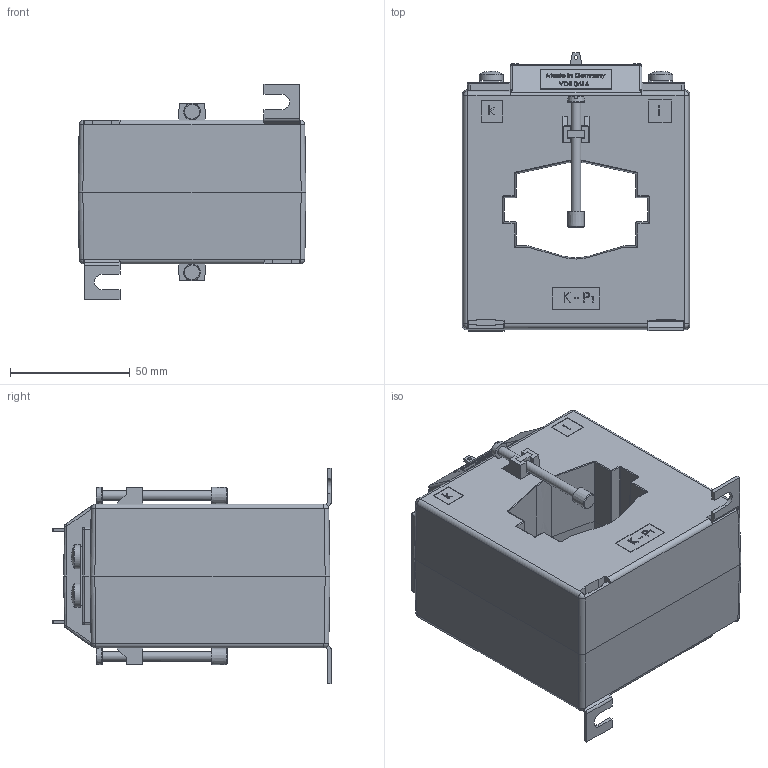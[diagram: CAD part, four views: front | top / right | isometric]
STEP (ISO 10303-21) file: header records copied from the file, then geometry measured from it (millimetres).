
FILE_DESCRIPTION(/* description */ (''),/* implementation_level */ '2;1');
FILE_NAME(/* name */ 'ASK61.6.stp',/* time_stamp */ '2024-03-04T13:08:59+01:00',/* author */ ('JDI'),/* organization */ (''),/* preprocessor_version */ 'ST-DEVELOPER v19.2',/* originating_system */ 'Autodesk Inventor 2023',/* authorisation */ '');
FILE_SCHEMA (('AUTOMOTIVE_DESIGN { 1 0 10303 214 3 1 1 }'));
Products named in the file (1): ASK61.6
Bounding box: 95 x 116 x 90 mm (x, y, z)
Volume: 480588.6 mm3; surface area: 59905.4 mm2
Topology: 3 solids, 3 shells, 1391 faces, 3616 edges, 2287 vertices
Faces by surface type: plane 929, bspline 262, cylinder 140, sphere 28, torus 16, cone 16
Full cylindrical faces by diameter (mm): 1.6 x2, 4 x4, 4.1 x2, 10 x4
Entity records: 55107 total; most frequent: CARTESIAN_POINT 21141, ORIENTED_EDGE 7216, DIRECTION 5937, EDGE_CURVE 3608, LINE 2619, VECTOR 2619, VERTEX_POINT 2287, AXIS2_PLACEMENT_3D 1659
